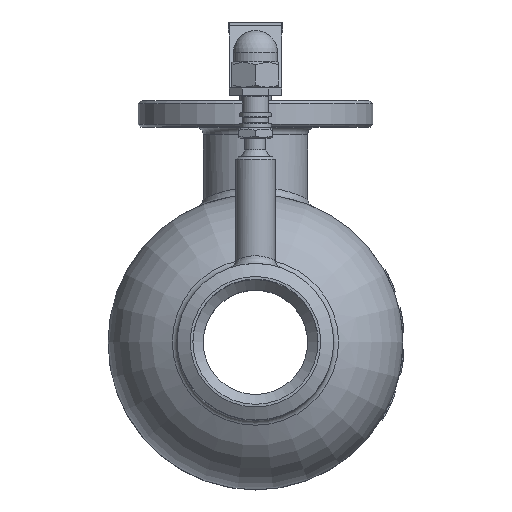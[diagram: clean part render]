
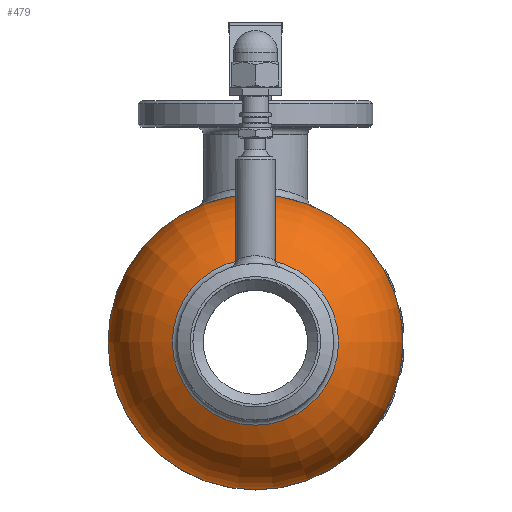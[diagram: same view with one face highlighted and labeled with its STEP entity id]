
A CAD part, top view. The second image highlights one B-rep face of the part: STEP entity #479.
In plain terms, the highlighted toroidal (fillet/blend) face has major radius 16.717 mm and minor radius 39.783 mm.
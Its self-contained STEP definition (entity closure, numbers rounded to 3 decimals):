
#479=ADVANCED_FACE('',(#2791,#2793),#2795,.T.);
#2791=FACE_OUTER_BOUND('',#2792,.T.);
#2792=EDGE_LOOP('',(#30489));
#2793=FACE_BOUND('',#2794,.T.);
#2794=EDGE_LOOP('',(#30490,#30491));
#2795=DEGENERATE_TOROIDAL_SURFACE('',#2796,16.717,39.783,.T.);
#2796=AXIS2_PLACEMENT_3D('',#2797,#2798,#2799);
#2797=CARTESIAN_POINT('',(0.,0.,37.5));
#2798=DIRECTION('',(0.,0.,1.));
#2799=DIRECTION('',(1.,0.,0.));
#30489=ORIENTED_EDGE('',*,*,#36225,.T.);
#30490=ORIENTED_EDGE('',*,*,#36846,.T.);
#30491=ORIENTED_EDGE('',*,*,#36847,.T.);
#36225=EDGE_CURVE('',#38344,#38344,#38345,.T.);
#36846=EDGE_CURVE('',#39556,#39557,#39558,.T.);
#36847=EDGE_CURVE('',#39557,#39556,#39559,.T.);
#38344=VERTEX_POINT('',#41902);
#38345=CIRCLE('',#41903,56.5);
#39556=VERTEX_POINT('',#58065);
#39557=VERTEX_POINT('',#58066);
#39558=CIRCLE('',#58067,31.858);
#39559=CIRCLE('',#58071,31.858);
#41902=CARTESIAN_POINT('',(56.5,0.,37.5));
#41903=AXIS2_PLACEMENT_3D('',#41904,#41905,#41906);
#41904=CARTESIAN_POINT('',(0.,0.,37.5));
#41905=DIRECTION('',(0.,0.,1.));
#41906=DIRECTION('',(1.,0.,0.));
#58065=CARTESIAN_POINT('',(31.858,0.,74.289));
#58066=CARTESIAN_POINT('',(-31.858,0.,74.289));
#58067=AXIS2_PLACEMENT_3D('',#58068,#58069,#58070);
#58068=CARTESIAN_POINT('',(0.,0.,74.289));
#58069=DIRECTION('',(0.,0.,-1.));
#58070=DIRECTION('',(1.,0.,0.));
#58071=AXIS2_PLACEMENT_3D('',#58072,#58073,#58074);
#58072=CARTESIAN_POINT('',(0.,0.,74.289));
#58073=DIRECTION('',(0.,0.,-1.));
#58074=DIRECTION('',(-1.,0.,0.));
